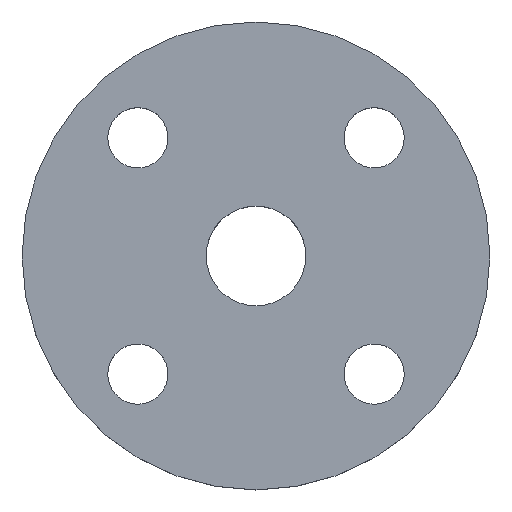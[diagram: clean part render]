
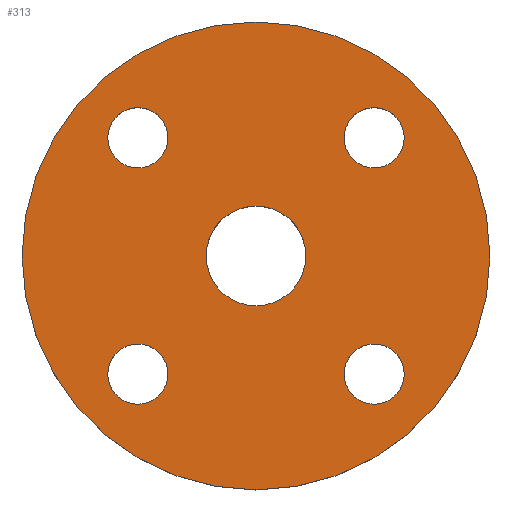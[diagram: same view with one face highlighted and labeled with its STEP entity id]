
A CAD part, top view. The second image highlights one B-rep face of the part: STEP entity #313.
In plain terms, the highlighted planar face has unit normal (0, 0, 1).
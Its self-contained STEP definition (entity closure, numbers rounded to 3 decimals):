
#2 = ORIENTED_EDGE ( 'NONE', *, *, #292, .T. ) ;
#14 = DIRECTION ( 'NONE',  ( 0., 0., -1. ) ) ;
#24 = ORIENTED_EDGE ( 'NONE', *, *, #295, .T. ) ;
#28 = FACE_BOUND ( 'NONE', #456, .T. ) ;
#29 = AXIS2_PLACEMENT_3D ( 'NONE', #75, #274, #469 ) ;
#39 = AXIS2_PLACEMENT_3D ( 'NONE', #568, #129, #330 ) ;
#43 = ORIENTED_EDGE ( 'NONE', *, *, #441, .F. ) ;
#65 = EDGE_CURVE ( 'NONE', #318, #420, #627, .T. ) ;
#69 = ORIENTED_EDGE ( 'NONE', *, *, #161, .T. ) ;
#70 = EDGE_CURVE ( 'NONE', #505, #495, #188, .T. ) ;
#74 = CIRCLE ( 'NONE', #436, 9. ) ;
#75 = CARTESIAN_POINT ( 'NONE',  ( -35.355, 35.355, 0. ) ) ;
#85 = CARTESIAN_POINT ( 'NONE',  ( -14.918, 0., 0. ) ) ;
#86 = CARTESIAN_POINT ( 'NONE',  ( -35.355, -35.355, 0. ) ) ;
#87 = CARTESIAN_POINT ( 'NONE',  ( 14.918, 0., 0. ) ) ;
#91 = DIRECTION ( 'NONE',  ( -1., 0., 0. ) ) ;
#109 = CARTESIAN_POINT ( 'NONE',  ( -35.355, 35.355, 0. ) ) ;
#113 = EDGE_LOOP ( 'NONE', ( #24, #355 ) ) ;
#117 = AXIS2_PLACEMENT_3D ( 'NONE', #565, #126, #327 ) ;
#124 = ORIENTED_EDGE ( 'NONE', *, *, #70, .T. ) ;
#126 = DIRECTION ( 'NONE',  ( 0., 0., -1. ) ) ;
#129 = DIRECTION ( 'NONE',  ( 0., 0., 1. ) ) ;
#134 = AXIS2_PLACEMENT_3D ( 'NONE', #458, #14, #215 ) ;
#141 = DIRECTION ( 'NONE',  ( 1., 0., 0. ) ) ;
#143 = ORIENTED_EDGE ( 'NONE', *, *, #65, .T. ) ;
#147 = EDGE_CURVE ( 'NONE', #346, #557, #490, .T. ) ;
#155 = CARTESIAN_POINT ( 'NONE',  ( -35.355, -35.355, 0. ) ) ;
#161 = EDGE_CURVE ( 'NONE', #254, #421, #522, .T. ) ;
#170 = CARTESIAN_POINT ( 'NONE',  ( 0., 0., 0. ) ) ;
#173 = CARTESIAN_POINT ( 'NONE',  ( 35.355, 35.355, 0. ) ) ;
#176 = DIRECTION ( 'NONE',  ( 0., 0., 1. ) ) ;
#179 = FACE_OUTER_BOUND ( 'NONE', #322, .T. ) ;
#181 = EDGE_CURVE ( 'NONE', #557, #346, #280, .T. ) ;
#183 = DIRECTION ( 'NONE',  ( 1., 0., 0. ) ) ;
#188 = CIRCLE ( 'NONE', #459, 9. ) ;
#190 = DIRECTION ( 'NONE',  ( 0., 0., -1. ) ) ;
#191 = CARTESIAN_POINT ( 'NONE',  ( -70., 0., 0. ) ) ;
#195 = AXIS2_PLACEMENT_3D ( 'NONE', #173, #369, #562 ) ;
#200 = EDGE_CURVE ( 'NONE', #495, #505, #391, .T. ) ;
#202 = AXIS2_PLACEMENT_3D ( 'NONE', #614, #176, #372 ) ;
#215 = DIRECTION ( 'NONE',  ( -1., 0., 0. ) ) ;
#229 = FACE_BOUND ( 'NONE', #365, .T. ) ;
#238 = CIRCLE ( 'NONE', #507, 14.918 ) ;
#254 = VERTEX_POINT ( 'NONE', #523 ) ;
#274 = DIRECTION ( 'NONE',  ( 0., 0., -1. ) ) ;
#280 = CIRCLE ( 'NONE', #195, 9. ) ;
#282 = CARTESIAN_POINT ( 'NONE',  ( -26.355, -35.355, 0. ) ) ;
#286 = CARTESIAN_POINT ( 'NONE',  ( 26.355, 35.355, 0. ) ) ;
#290 = CIRCLE ( 'NONE', #202, 70. ) ;
#292 = EDGE_CURVE ( 'NONE', #421, #254, #290, .T. ) ;
#295 = EDGE_CURVE ( 'NONE', #367, #350, #482, .T. ) ;
#296 = ORIENTED_EDGE ( 'NONE', *, *, #181, .T. ) ;
#300 = CIRCLE ( 'NONE', #572, 14.918 ) ;
#309 = ORIENTED_EDGE ( 'NONE', *, *, #200, .T. ) ;
#310 = DIRECTION ( 'NONE',  ( 0., 0., -1. ) ) ;
#313 = ADVANCED_FACE ( 'NONE', ( #472, #28, #229, #425, #618, #179 ), #377, .T. ) ;
#318 = VERTEX_POINT ( 'NONE', #282 ) ;
#322 = EDGE_LOOP ( 'NONE', ( #69, #2 ) ) ;
#327 = DIRECTION ( 'NONE',  ( -1., 0., 0. ) ) ;
#330 = DIRECTION ( 'NONE',  ( 1., 0., 0. ) ) ;
#338 = EDGE_CURVE ( 'NONE', #371, #344, #238, .T. ) ;
#340 = CARTESIAN_POINT ( 'NONE',  ( 35.355, -35.355, 0. ) ) ;
#344 = VERTEX_POINT ( 'NONE', #85 ) ;
#346 = VERTEX_POINT ( 'NONE', #286 ) ;
#350 = VERTEX_POINT ( 'NONE', #430 ) ;
#351 = AXIS2_PLACEMENT_3D ( 'NONE', #86, #190, #388 ) ;
#355 = ORIENTED_EDGE ( 'NONE', *, *, #636, .T. ) ;
#356 = DIRECTION ( 'NONE',  ( 0., 0., -1. ) ) ;
#365 = EDGE_LOOP ( 'NONE', ( #124, #309 ) ) ;
#366 = DIRECTION ( 'NONE',  ( 0., 0., 1. ) ) ;
#367 = VERTEX_POINT ( 'NONE', #527 ) ;
#369 = DIRECTION ( 'NONE',  ( 0., 0., -1. ) ) ;
#371 = VERTEX_POINT ( 'NONE', #87 ) ;
#372 = DIRECTION ( 'NONE',  ( 1., 0., 0. ) ) ;
#377 = PLANE ( 'NONE',  #39 ) ;
#388 = DIRECTION ( 'NONE',  ( -1., 0., 0. ) ) ;
#389 = CARTESIAN_POINT ( 'NONE',  ( 0., 0., 0. ) ) ;
#391 = CIRCLE ( 'NONE', #29, 9. ) ;
#416 = ORIENTED_EDGE ( 'NONE', *, *, #610, .T. ) ;
#420 = VERTEX_POINT ( 'NONE', #631 ) ;
#421 = VERTEX_POINT ( 'NONE', #191 ) ;
#425 = FACE_BOUND ( 'NONE', #450, .T. ) ;
#427 = CARTESIAN_POINT ( 'NONE',  ( 0., 0., 0. ) ) ;
#430 = CARTESIAN_POINT ( 'NONE',  ( 26.355, -35.355, 0. ) ) ;
#436 = AXIS2_PLACEMENT_3D ( 'NONE', #340, #530, #91 ) ;
#441 = EDGE_CURVE ( 'NONE', #344, #371, #300, .T. ) ;
#444 = AXIS2_PLACEMENT_3D ( 'NONE', #170, #366, #559 ) ;
#445 = CARTESIAN_POINT ( 'NONE',  ( -44.355, 35.355, 0. ) ) ;
#450 = EDGE_LOOP ( 'NONE', ( #296, #560 ) ) ;
#452 = ORIENTED_EDGE ( 'NONE', *, *, #338, .F. ) ;
#456 = EDGE_LOOP ( 'NONE', ( #143, #416 ) ) ;
#458 = CARTESIAN_POINT ( 'NONE',  ( 35.355, 35.355, 0. ) ) ;
#459 = AXIS2_PLACEMENT_3D ( 'NONE', #109, #310, #500 ) ;
#469 = DIRECTION ( 'NONE',  ( -1., 0., 0. ) ) ;
#472 = FACE_BOUND ( 'NONE', #113, .T. ) ;
#476 = CARTESIAN_POINT ( 'NONE',  ( 44.355, 35.355, 0. ) ) ;
#482 = CIRCLE ( 'NONE', #117, 9. ) ;
#490 = CIRCLE ( 'NONE', #134, 9. ) ;
#495 = VERTEX_POINT ( 'NONE', #445 ) ;
#500 = DIRECTION ( 'NONE',  ( -1., 0., 0. ) ) ;
#505 = VERTEX_POINT ( 'NONE', #590 ) ;
#507 = AXIS2_PLACEMENT_3D ( 'NONE', #427, #621, #183 ) ;
#511 = EDGE_LOOP ( 'NONE', ( #452, #43 ) ) ;
#522 = CIRCLE ( 'NONE', #444, 70. ) ;
#523 = CARTESIAN_POINT ( 'NONE',  ( 70., 0., 0. ) ) ;
#527 = CARTESIAN_POINT ( 'NONE',  ( 44.355, -35.355, 0. ) ) ;
#530 = DIRECTION ( 'NONE',  ( 0., 0., -1. ) ) ;
#541 = AXIS2_PLACEMENT_3D ( 'NONE', #155, #356, #548 ) ;
#548 = DIRECTION ( 'NONE',  ( -1., 0., 0. ) ) ;
#557 = VERTEX_POINT ( 'NONE', #476 ) ;
#559 = DIRECTION ( 'NONE',  ( 1., 0., 0. ) ) ;
#560 = ORIENTED_EDGE ( 'NONE', *, *, #147, .T. ) ;
#562 = DIRECTION ( 'NONE',  ( -1., 0., 0. ) ) ;
#565 = CARTESIAN_POINT ( 'NONE',  ( 35.355, -35.355, 0. ) ) ;
#568 = CARTESIAN_POINT ( 'NONE',  ( 0., 0., 0. ) ) ;
#572 = AXIS2_PLACEMENT_3D ( 'NONE', #389, #581, #141 ) ;
#581 = DIRECTION ( 'NONE',  ( 0., 0., 1. ) ) ;
#590 = CARTESIAN_POINT ( 'NONE',  ( -26.355, 35.355, 0. ) ) ;
#610 = EDGE_CURVE ( 'NONE', #420, #318, #630, .T. ) ;
#614 = CARTESIAN_POINT ( 'NONE',  ( 0., 0., 0. ) ) ;
#618 = FACE_BOUND ( 'NONE', #511, .T. ) ;
#621 = DIRECTION ( 'NONE',  ( 0., 0., 1. ) ) ;
#627 = CIRCLE ( 'NONE', #541, 9. ) ;
#630 = CIRCLE ( 'NONE', #351, 9. ) ;
#631 = CARTESIAN_POINT ( 'NONE',  ( -44.355, -35.355, 0. ) ) ;
#636 = EDGE_CURVE ( 'NONE', #350, #367, #74, .T. ) ;
